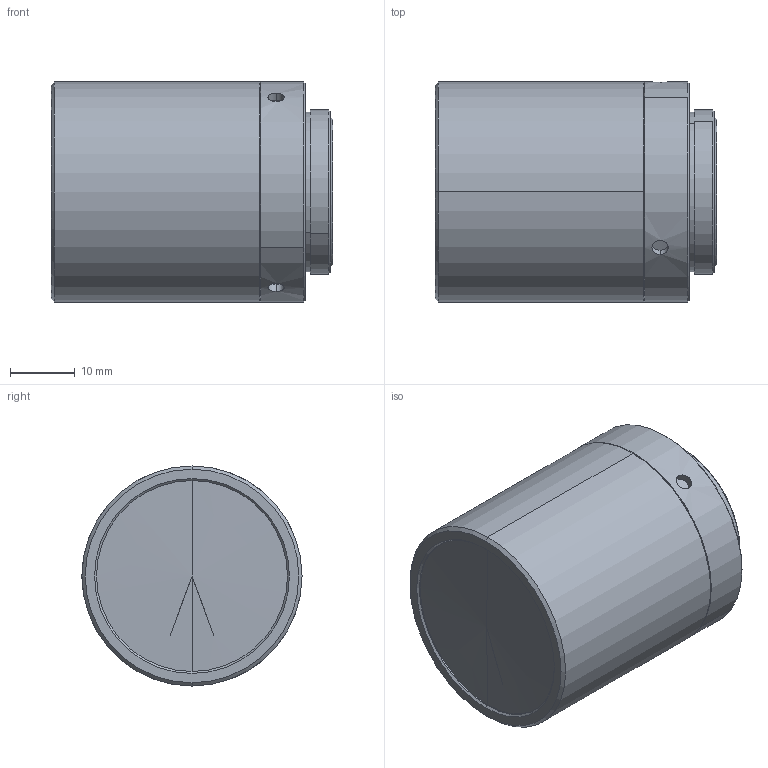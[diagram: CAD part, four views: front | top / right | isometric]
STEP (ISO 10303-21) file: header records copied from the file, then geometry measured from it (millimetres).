
FILE_DESCRIPTION (( 'STEP AP203' ), '1' );
FILE_NAME ('WWT230-017-221S.STEP', '2023-02-10T06:44:04', ( '' ), ( '' ), 'SwSTEP 2.0', 'SolidWorks 2017', '' );
FILE_SCHEMA (( 'CONFIG_CONTROL_DESIGN' ));
Length unit declared in the file: millimetre
Products named in the file (1): WWT230-017-221S
Bounding box: 43.5 x 34 x 34 mm (x, y, z)
Volume: 37314.4 mm3; surface area: 6418.7 mm2
Topology: 1 solids, 1 shells, 47 faces, 96 edges, 56 vertices
Faces by surface type: cylinder 23, cone 18, plane 6
Entity records: 1481 total; most frequent: CARTESIAN_POINT 424, DIRECTION 218, ORIENTED_EDGE 184, EDGE_CURVE 92, AXIS2_PLACEMENT_3D 90, EDGE_LOOP 56, VERTEX_POINT 56, FACE_OUTER_BOUND 47
